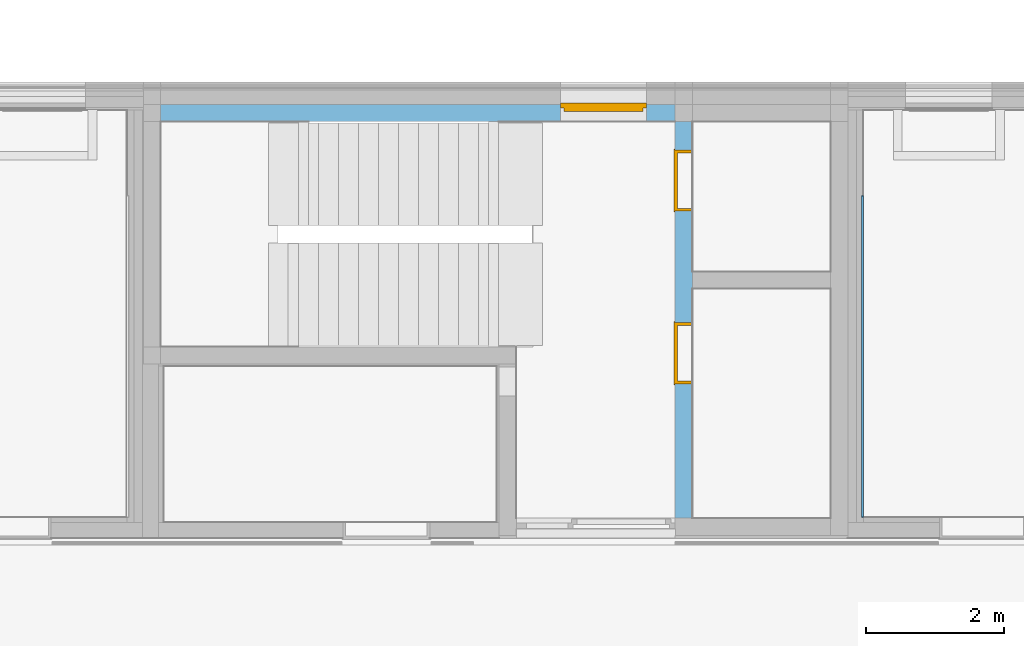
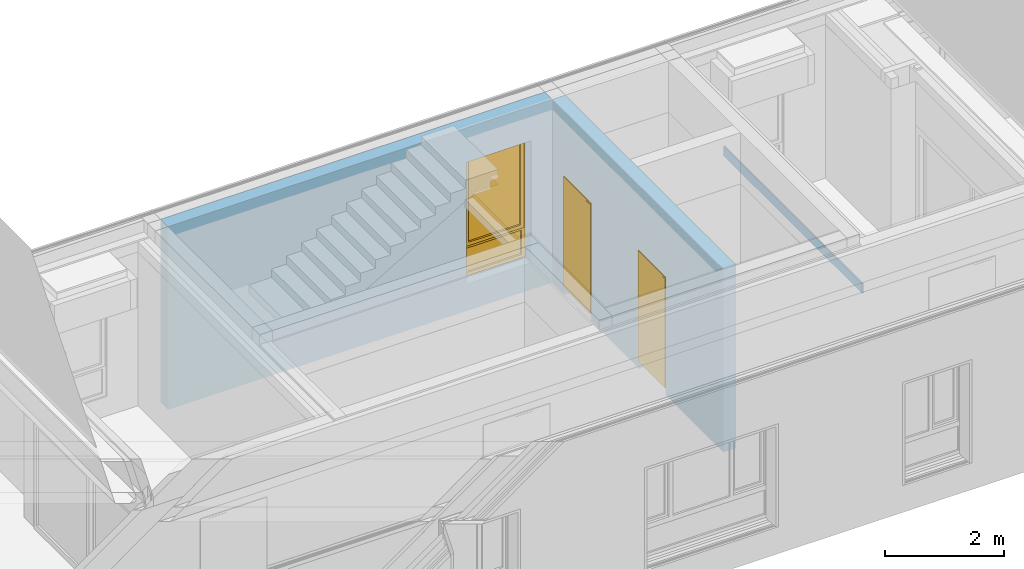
# One storey, part 108 of 222: 2 doors, 1 wall, 1 window, 3 openings, plus 2 elements that do not belong to this part.
"""IFC4 building model written with IfcOpenShell, lengths in metres."""

from ifc_helpers import new_model, entity, si_unit, converted_unit, derived_unit, frame, frame_2d, origin, origin_with_axes, place, context, subcontext, project, spatial, polyline, rectangle, outline, extrude, closed_shell, open_shell, faceted_brep, surface_model, source, transform, mapped, material, type_object, element, fill, save


model = new_model("IFC4")

# Units and contexts
model_context = context("Model", 3, precision=1e-05, world=origin())
body_context = subcontext(model_context, "Body", "Model", "MODEL_VIEW")
ifc_project = project(units=[si_unit("LENGTHUNIT", "METRE"), si_unit("AREAUNIT", "SQUARE_METRE"), si_unit("VOLUMEUNIT", "CUBIC_METRE"), si_unit("MASSUNIT", "GRAM", prefix="KILO"), converted_unit("PLANEANGLEUNIT", "DEGREE", entity("IfcPlaneAngleMeasure", 0.0174532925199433), si_unit("PLANEANGLEUNIT", "RADIAN"), dimensions=[0, 0, 0, 0, 0, 0, 0]), derived_unit("THERMALTRANSMITTANCEUNIT", [(si_unit("POWERUNIT", "WATT"), 1), (si_unit("THERMODYNAMICTEMPERATUREUNIT", "KELVIN"), -1), (si_unit("LENGTHUNIT", "METRE"), -2)]), derived_unit("VOLUMETRICFLOWRATEUNIT", [(si_unit("LENGTHUNIT", "METRE"), 3), (converted_unit("TIMEUNIT", "hour", entity("IfcTimeMeasure", 3600.0), si_unit("TIMEUNIT", "SECOND"), dimensions=[0, 0, 1, 0, 0, 0, 0]), -1), (si_unit("LENGTHUNIT", "METRE"), -1)])], contexts=[model_context])

# Site, building, storey
site_placement = place(None, origin())
site = spatial("IfcSite", under=ifc_project, at=site_placement, Name="Psychiatrie Neubau Wunstorf", CompositionType="ELEMENT")
building_placement = place(site_placement, origin())
building = spatial("IfcBuilding", under=site, at=building_placement, Name="Neubau H2 Stationsgebäude", CompositionType="ELEMENT")
storey_placement = place(building_placement, frame((0.0, 0.0, 3.6)))
storey = spatial("IfcBuildingStorey", under=building, at=storey_placement, Name="H2 Ebene +1", CompositionType="ELEMENT", Elevation=3.6)

# Wall, opening, window
ifc_material_1 = material(Name="WA-STB")
wall_1_placement = place(storey_placement, frame((48.15, 28.8949996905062, 0.0)))
wall_1 = element("IfcWall", 1, at=wall_1_placement, inside=storey, material=ifc_material_1, context=body_context, shape_type="SweptSolid", body=[
    extrude(rectangle(XDim=7.45, YDim=0.25, at=frame_2d((3.725, 0.125), x_axis=(1.0, 0.0))), origin_with_axes(), (0.0, 0.0, 1.0), 3.75),
])
opening_1_placement = place(wall_1_placement, frame((5.78750000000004, 0.0, 0.55), z_axis=(0.0, 1.0, 0.0), x_axis=(0.0, 0.0, 1.0)))
opening_1 = element("IfcOpeningElement", 2, at=opening_1_placement, cuts=wall_1, Name="Fensteröffnung", ObjectType="Opening", context=body_context, shape_type="SweptSolid", body=[
    extrude(outline(polyline([(2.5, 1.25), (2.5, 0.0), (0.0, 0.0), (0.0, 1.25), (2.5, 1.25)])), origin_with_axes(), (0.0, 0.0, 1.0), 0.25),
])
window_type = type_object("IfcWindowType", Name="Fenster", ParameterTakesPrecedence=False, PartitioningType="DOUBLE_PANEL_HORIZONTAL", PredefinedType="WINDOW")
shared_shape_1 = source(origin_with_axes(), body_context, "Body", "SurfaceModel", [
    surface_model("IfcShellBasedSurfaceModel", [(1.25, 0.0, 2.5), (1.25, 0.0, 0.0), (1.18, 0.0, 0.0), (1.18, 0.0, 2.5), (1.25, 0.0700000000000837, 0.0), (1.25, 0.0700000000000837, 2.5), (1.18, 0.0700000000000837, 2.5), (1.18, 0.0700000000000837, 0.0)], [closed_shell([[[0, 1, 2, 3]], [[4, 5, 6, 7]], [[1, 0, 5, 4]], [[2, 1, 4, 7]], [[3, 2, 7, 6]], [[0, 3, 6, 5]]], orient=[[False], [False], [False], [False], [False], [False]])]),
    surface_model("IfcShellBasedSurfaceModel", [(0.07, 0.0, 2.5), (0.07, 0.0, 0.0), (0.0, 0.0, 0.0), (0.0, 0.0, 2.5), (0.07, 0.0700000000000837, 0.0), (0.07, 0.0700000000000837, 2.5), (0.0, 0.0700000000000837, 2.5), (0.0, 0.0700000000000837, 0.0)], [closed_shell([[[0, 1, 2, 3]], [[4, 5, 6, 7]], [[1, 0, 5, 4]], [[2, 1, 4, 7]], [[3, 2, 7, 6]], [[0, 3, 6, 5]]], orient=[[False], [False], [False], [False], [False], [False]])]),
    surface_model("IfcShellBasedSurfaceModel", [(1.18, 0.0, 0.07), (1.18, 0.0, 0.0), (0.07, 0.0, 0.0), (0.07, 0.0, 0.07), (1.18, 0.0700000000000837, 0.0), (1.18, 0.0700000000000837, 0.07), (0.07, 0.0700000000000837, 0.07), (0.07, 0.0700000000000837, 0.0)], [closed_shell([[[0, 1, 2, 3]], [[4, 5, 6, 7]], [[1, 0, 5, 4]], [[2, 1, 4, 7]], [[3, 2, 7, 6]], [[0, 3, 6, 5]]], orient=[[False], [False], [False], [False], [False], [False]])]),
    surface_model("IfcShellBasedSurfaceModel", [(1.18, 0.0, 2.5), (1.18, 0.0, 2.43), (0.07, 0.0, 2.43), (0.07, 0.0, 2.5), (1.18, 0.0700000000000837, 2.43), (1.18, 0.0700000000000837, 2.5), (0.07, 0.0700000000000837, 2.5), (0.07, 0.0700000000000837, 2.43)], [closed_shell([[[0, 1, 2, 3]], [[4, 5, 6, 7]], [[1, 0, 5, 4]], [[2, 1, 4, 7]], [[3, 2, 7, 6]], [[0, 3, 6, 5]]], orient=[[False], [False], [False], [False], [False], [False]])]),
    surface_model("IfcShellBasedSurfaceModel", [(1.18, 0.0, 0.67), (1.18, 0.0, 0.57), (0.07, 0.0, 0.57), (0.07, 0.0, 0.67), (1.18, 0.0700000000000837, 0.57), (1.18, 0.0700000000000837, 0.67), (0.07, 0.0700000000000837, 0.67), (0.07, 0.0700000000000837, 0.57)], [closed_shell([[[0, 1, 2, 3]], [[4, 5, 6, 7]], [[1, 0, 5, 4]], [[2, 1, 4, 7]], [[3, 2, 7, 6]], [[0, 3, 6, 5]]], orient=[[False], [False], [False], [False], [False], [False]])]),
    surface_model("IfcShellBasedSurfaceModel", [(1.18, 0.0350000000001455, 0.07), (0.07, 0.0350000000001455, 0.07), (0.07, 0.0350000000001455, 0.57), (1.18, 0.0350000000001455, 0.57)], [open_shell([[[0, 1, 2, 3]]], orient=[[False]])]),
    surface_model("IfcShellBasedSurfaceModel", [(1.2, 0.0500000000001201, 2.45), (1.2, 0.0500000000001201, 0.65), (1.13, 0.0500000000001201, 0.65), (1.13, 0.0500000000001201, 2.45), (1.2, 0.12, 0.65), (1.2, 0.12, 2.45), (1.13, 0.12, 2.45), (1.13, 0.12, 0.65)], [closed_shell([[[0, 1, 2, 3]], [[4, 5, 6, 7]], [[1, 0, 5, 4]], [[2, 1, 4, 7]], [[3, 2, 7, 6]], [[0, 3, 6, 5]]], orient=[[False], [False], [False], [False], [False], [False]])]),
    surface_model("IfcShellBasedSurfaceModel", [(0.12, 0.0500000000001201, 2.45), (0.12, 0.0500000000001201, 0.65), (0.05, 0.0500000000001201, 0.65), (0.05, 0.0500000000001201, 2.45), (0.12, 0.12, 0.65), (0.12, 0.12, 2.45), (0.05, 0.12, 2.45), (0.05, 0.12, 0.65)], [closed_shell([[[0, 1, 2, 3]], [[4, 5, 6, 7]], [[1, 0, 5, 4]], [[2, 1, 4, 7]], [[3, 2, 7, 6]], [[0, 3, 6, 5]]], orient=[[False], [False], [False], [False], [False], [False]])]),
    surface_model("IfcShellBasedSurfaceModel", [(1.13, 0.0500000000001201, 0.72), (1.13, 0.0500000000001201, 0.65), (0.12, 0.0500000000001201, 0.65), (0.12, 0.0500000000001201, 0.72), (1.13, 0.12, 0.65), (1.13, 0.12, 0.72), (0.12, 0.12, 0.72), (0.12, 0.12, 0.65)], [closed_shell([[[0, 1, 2, 3]], [[4, 5, 6, 7]], [[1, 0, 5, 4]], [[2, 1, 4, 7]], [[3, 2, 7, 6]], [[0, 3, 6, 5]]], orient=[[False], [False], [False], [False], [False], [False]])]),
    surface_model("IfcShellBasedSurfaceModel", [(1.13, 0.0500000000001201, 2.45), (1.13, 0.0500000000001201, 2.38), (0.12, 0.0500000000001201, 2.38), (0.12, 0.0500000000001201, 2.45), (1.13, 0.12, 2.38), (1.13, 0.12, 2.45), (0.12, 0.12, 2.45), (0.12, 0.12, 2.38)], [closed_shell([[[0, 1, 2, 3]], [[4, 5, 6, 7]], [[1, 0, 5, 4]], [[2, 1, 4, 7]], [[3, 2, 7, 6]], [[0, 3, 6, 5]]], orient=[[False], [False], [False], [False], [False], [False]])]),
    surface_model("IfcShellBasedSurfaceModel", [(1.13, 0.0850000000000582, 0.72), (0.12, 0.0850000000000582, 0.72), (0.12, 0.0850000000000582, 2.38), (1.13, 0.0850000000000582, 2.38)], [open_shell([[[0, 1, 2, 3]]], orient=[[False]])]),
])
window_placement = place(opening_1_placement, frame((0.0, 1.25, 0.27), z_axis=(1.0, 0.0, 0.0), x_axis=(0.0, -1.0, 0.0)))
window = element("IfcWindow", 3, at=window_placement, inside=storey, type_object=window_type, Name="Fenster", OverallHeight=2.5, OverallWidth=1.25, context=body_context, shape_type="MappedRepresentation", body=[
    mapped(shared_shape_1, transform((0.0, 0.0, 0.0), x_axis=(1.0, 0.0, 0.0), y_axis=(0.0, 1.0, 0.0), z_axis=(0.0, 0.0, 1.0), scale=1.0)),
])
fill(opening_1, window)

# Wall
wall_2_placement = place(storey_placement, frame((58.3, 23.1709999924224, 2.3)))
element("IfcWall", 4, at=wall_2_placement, inside=storey, Name="WV 1.1", context=body_context, shape_type="Brep", body=[
    faceted_brep([(0.025, 4.65, 0.0), (0.0, 4.65, 0.0), (0.0, 0.0, 0.0), (0.025, 0.0, 0.0), (0.0, 4.65, 0.2), (0.025, 4.65, 0.2), (0.025, 0.0, 0.2), (0.0, 0.0, 0.2)], [[[0, 1, 2, 3]], [[4, 5, 6, 7]], [[1, 0, 5, 4]], [[2, 1, 4, 7]], [[3, 2, 7, 6]], [[0, 3, 6, 5]]], orient=[[False], [False], [False], [False], [False], [False]]),
])

# Wall, openings, doors
ifc_material_2 = material(Name="WA-STB")
wall_3_placement = place(storey_placement, frame((55.6, 28.8949996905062, 0.0), z_axis=(0.0, 0.0, 1.0), x_axis=(3.80275984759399e-15, -1.0, 0.0)))
wall_3 = element("IfcWall", 5, at=wall_3_placement, inside=storey, material=ifc_material_2, context=body_context, shape_type="SweptSolid", body=[
    extrude(rectangle(XDim=5.74000823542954, YDim=0.25, at=frame_2d((2.87000411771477, 0.125), x_axis=(1.0, 0.0))), origin_with_axes(), (0.0, 0.0, 1.0), 3.75),
])
opening_2_placement = place(wall_3_placement, frame((3.79499984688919, 0.25, 0.0), z_axis=(-3.63797880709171e-15, -1.0, 0.0), x_axis=(0.0, 0.0, 1.0)))
opening_2 = element("IfcOpeningElement", 6, at=opening_2_placement, cuts=wall_3, Name="Türöffnung", ObjectType="Opening", context=body_context, shape_type="SweptSolid", body=[
    extrude(outline(polyline([(2.41, 0.885), (2.41, 0.0), (0.0, 0.0), (0.0, 0.885), (2.41, 0.885)])), origin_with_axes(), (0.0, 0.0, 1.0), 0.25),
])
opening_3_placement = place(wall_3_placement, frame((1.29499999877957, 0.249999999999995, 0.0), z_axis=(-3.63797880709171e-15, -1.0, 0.0), x_axis=(0.0, 0.0, 1.0)))
opening_3 = element("IfcOpeningElement", 7, at=opening_3_placement, cuts=wall_3, Name="Türöffnung", ObjectType="Opening", context=body_context, shape_type="SweptSolid", body=[
    extrude(outline(polyline([(2.41, 0.885), (2.41, 0.0), (0.0, 0.0), (0.0, 0.885), (2.41, 0.885)])), origin_with_axes(), (0.0, 0.0, 1.0), 0.25),
])
ifc_material_3 = material(Name="TI-1F-UZ-ZK")
door_type_1 = type_object("IfcDoorType", Name="SMT", OperationType="SINGLE_SWING_RIGHT", ParameterTakesPrecedence=False, PredefinedType="DOOR")
shared_shape_2 = source(origin_with_axes(), body_context, "Body", "Brep", [
    faceted_brep([(0.884999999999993, -0.0149999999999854, 2.41), (0.884999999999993, -0.0149999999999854, 0.15), (0.844999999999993, -0.0149999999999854, 0.15), (0.844999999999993, -0.0149999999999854, 2.41), (0.884999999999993, 0.265000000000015, 0.15), (0.884999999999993, 0.265000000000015, 2.41), (0.844999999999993, 0.265000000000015, 2.41), (0.844999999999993, 0.265000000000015, 0.15)], [[[0, 1, 2, 3]], [[4, 5, 6, 7]], [[1, 0, 5, 4]], [[2, 1, 4, 7]], [[3, 2, 7, 6]], [[0, 3, 6, 5]]], orient=[[False], [False], [False], [False], [False], [False]]),
    faceted_brep([(0.884999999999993, -0.0149999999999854, 2.425), (0.899999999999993, -0.0149999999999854, 2.425), (0.899999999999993, -0.0149999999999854, 0.15), (0.884999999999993, -0.0149999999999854, 0.15), (0.884999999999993, 0.0, 0.15), (0.899999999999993, 0.0, 0.15), (0.899999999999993, 0.0, 2.425), (0.884999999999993, 0.0, 2.425)], [[[0, 1, 2, 3]], [[4, 5, 6, 7]], [[3, 4, 7, 0]], [[2, 5, 4, 3]], [[1, 6, 5, 2]], [[0, 7, 6, 1]]], orient=[[False], [False], [False], [False], [False], [False]]),
    faceted_brep([(0.884999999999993, 0.250000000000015, 2.425), (0.899999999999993, 0.250000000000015, 2.425), (0.899999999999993, 0.250000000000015, 0.15), (0.884999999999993, 0.250000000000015, 0.15), (0.884999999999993, 0.265000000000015, 0.15), (0.899999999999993, 0.265000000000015, 0.15), (0.899999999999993, 0.265000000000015, 2.425), (0.884999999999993, 0.265000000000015, 2.425)], [[[0, 1, 2, 3]], [[4, 5, 6, 7]], [[3, 4, 7, 0]], [[2, 5, 4, 3]], [[1, 6, 5, 2]], [[0, 7, 6, 1]]], orient=[[False], [False], [False], [False], [False], [False]]),
    faceted_brep([(0.0399999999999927, -0.0149999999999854, 2.41), (0.0399999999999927, -0.0149999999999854, 0.15), (0.0, -0.0149999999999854, 0.15), (0.0, -0.0149999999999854, 2.41), (0.0399999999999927, 0.265000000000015, 0.15), (0.0399999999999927, 0.265000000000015, 2.41), (0.0, 0.265000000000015, 2.41), (0.0, 0.265000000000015, 0.15)], [[[0, 1, 2, 3]], [[4, 5, 6, 7]], [[1, 0, 5, 4]], [[2, 1, 4, 7]], [[3, 2, 7, 6]], [[0, 3, 6, 5]]], orient=[[False], [False], [False], [False], [False], [False]]),
    faceted_brep([(0.0, -0.0149999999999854, 2.425), (0.0, -0.0149999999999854, 0.15), (-0.0150000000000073, -0.0149999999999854, 0.15), (-0.0150000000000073, -0.0149999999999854, 2.425), (0.0, 0.0, 0.15), (0.0, 0.0, 2.425), (-0.0150000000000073, 0.0, 2.425), (-0.0150000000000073, 0.0, 0.15)], [[[0, 1, 2, 3]], [[4, 5, 6, 7]], [[1, 0, 5, 4]], [[2, 1, 4, 7]], [[3, 2, 7, 6]], [[0, 3, 6, 5]]], orient=[[False], [False], [False], [False], [False], [False]]),
    faceted_brep([(0.0, 0.250000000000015, 2.425), (0.0, 0.250000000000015, 0.15), (-0.0150000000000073, 0.250000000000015, 0.15), (-0.0150000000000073, 0.250000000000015, 2.425), (0.0, 0.265000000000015, 0.15), (0.0, 0.265000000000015, 2.425), (-0.0150000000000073, 0.265000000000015, 2.425), (-0.0150000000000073, 0.265000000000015, 0.15)], [[[0, 1, 2, 3]], [[4, 5, 6, 7]], [[1, 0, 5, 4]], [[2, 1, 4, 7]], [[3, 2, 7, 6]], [[0, 3, 6, 5]]], orient=[[False], [False], [False], [False], [False], [False]]),
    faceted_brep([(0.844999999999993, -0.0149999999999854, 2.41), (0.844999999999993, -0.0149999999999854, 2.37), (0.0399999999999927, -0.0149999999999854, 2.37), (0.0399999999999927, -0.0149999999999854, 2.41), (0.844999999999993, 0.265000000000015, 2.37), (0.844999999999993, 0.265000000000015, 2.41), (0.0399999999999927, 0.265000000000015, 2.41), (0.0399999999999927, 0.265000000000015, 2.37)], [[[0, 1, 2, 3]], [[4, 5, 6, 7]], [[1, 0, 5, 4]], [[2, 1, 4, 7]], [[3, 2, 7, 6]], [[0, 3, 6, 5]]], orient=[[False], [False], [False], [False], [False], [False]]),
    faceted_brep([(0.884999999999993, -0.0149999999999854, 2.425), (0.884999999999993, -0.0149999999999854, 2.41), (0.0, -0.0149999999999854, 2.41), (0.0, -0.0149999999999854, 2.425), (0.884999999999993, 0.0, 2.41), (0.884999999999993, 0.0, 2.425), (0.0, 0.0, 2.425), (0.0, 0.0, 2.41)], [[[0, 1, 2, 3]], [[4, 5, 6, 7]], [[1, 0, 5, 4]], [[2, 1, 4, 7]], [[3, 2, 7, 6]], [[0, 3, 6, 5]]], orient=[[False], [False], [False], [False], [False], [False]]),
    faceted_brep([(0.884999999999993, 0.250000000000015, 2.425), (0.884999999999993, 0.250000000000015, 2.41), (0.0, 0.250000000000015, 2.41), (0.0, 0.250000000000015, 2.425), (0.884999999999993, 0.265000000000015, 2.41), (0.884999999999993, 0.265000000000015, 2.425), (0.0, 0.265000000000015, 2.425), (0.0, 0.265000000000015, 2.41)], [[[0, 1, 2, 3]], [[4, 5, 6, 7]], [[1, 0, 5, 4]], [[2, 1, 4, 7]], [[3, 2, 7, 6]], [[0, 3, 6, 5]]], orient=[[False], [False], [False], [False], [False], [False]]),
    faceted_brep([(0.859999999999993, 0.216000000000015, 2.385), (0.859999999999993, 0.216000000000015, 0.15), (0.0249999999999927, 0.216000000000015, 0.15), (0.0249999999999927, 0.216000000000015, 2.385), (0.859999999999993, 0.266000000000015, 0.15), (0.859999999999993, 0.266000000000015, 2.385), (0.0249999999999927, 0.266000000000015, 2.385), (0.0249999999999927, 0.266000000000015, 0.15)], [[[0, 1, 2, 3]], [[4, 5, 6, 7]], [[1, 0, 5, 4]], [[2, 1, 4, 7]], [[3, 2, 7, 6]], [[0, 3, 6, 5]]], orient=[[False], [False], [False], [False], [False], [False]]),
])
door_1_placement = place(opening_2_placement, frame((0.0, 0.0, 0.0), z_axis=(1.0, 0.0, 0.0), x_axis=(0.0, 1.0, -1.64781040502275e-16)))
door_1 = element("IfcDoor", 8, at=door_1_placement, inside=storey, type_object=door_type_1, material=ifc_material_3, Name="SMT", OverallHeight=2.41, OverallWidth=0.885, context=body_context, shape_type="MappedRepresentation", body=[
    mapped(shared_shape_2, transform((0.0, 0.0, 0.0), x_axis=(1.0, 0.0, 0.0), y_axis=(0.0, 1.0, 0.0), z_axis=(0.0, 0.0, 1.0), scale=1.0)),
])
fill(opening_2, door_1)
ifc_material_4 = material(Name="TI-1F-UZ-ZK")
door_type_2 = type_object("IfcDoorType", Name="SMT", OperationType="SINGLE_SWING_RIGHT", ParameterTakesPrecedence=False, PredefinedType="DOOR")
shared_shape_3 = source(origin_with_axes(), body_context, "Body", "Brep", [
    faceted_brep([(0.884999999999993, -0.0149999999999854, 2.41), (0.884999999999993, -0.0149999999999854, 0.15), (0.844999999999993, -0.0149999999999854, 0.15), (0.844999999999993, -0.0149999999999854, 2.41), (0.884999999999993, 0.265000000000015, 0.15), (0.884999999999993, 0.265000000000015, 2.41), (0.844999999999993, 0.265000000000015, 2.41), (0.844999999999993, 0.265000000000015, 0.15)], [[[0, 1, 2, 3]], [[4, 5, 6, 7]], [[1, 0, 5, 4]], [[2, 1, 4, 7]], [[3, 2, 7, 6]], [[0, 3, 6, 5]]], orient=[[False], [False], [False], [False], [False], [False]]),
    faceted_brep([(0.884999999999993, -0.0149999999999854, 2.425), (0.899999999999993, -0.0149999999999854, 2.425), (0.899999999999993, -0.0149999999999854, 0.15), (0.884999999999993, -0.0149999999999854, 0.15), (0.884999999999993, 0.0, 0.15), (0.899999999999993, 0.0, 0.15), (0.899999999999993, 0.0, 2.425), (0.884999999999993, 0.0, 2.425)], [[[0, 1, 2, 3]], [[4, 5, 6, 7]], [[3, 4, 7, 0]], [[2, 5, 4, 3]], [[1, 6, 5, 2]], [[0, 7, 6, 1]]], orient=[[False], [False], [False], [False], [False], [False]]),
    faceted_brep([(0.884999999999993, 0.250000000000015, 2.425), (0.899999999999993, 0.250000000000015, 2.425), (0.899999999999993, 0.250000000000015, 0.15), (0.884999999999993, 0.250000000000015, 0.15), (0.884999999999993, 0.265000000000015, 0.15), (0.899999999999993, 0.265000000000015, 0.15), (0.899999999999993, 0.265000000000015, 2.425), (0.884999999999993, 0.265000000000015, 2.425)], [[[0, 1, 2, 3]], [[4, 5, 6, 7]], [[3, 4, 7, 0]], [[2, 5, 4, 3]], [[1, 6, 5, 2]], [[0, 7, 6, 1]]], orient=[[False], [False], [False], [False], [False], [False]]),
    faceted_brep([(0.0399999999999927, -0.0149999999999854, 2.41), (0.0399999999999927, -0.0149999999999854, 0.15), (0.0, -0.0149999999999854, 0.15), (0.0, -0.0149999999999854, 2.41), (0.0399999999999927, 0.265000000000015, 0.15), (0.0399999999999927, 0.265000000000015, 2.41), (0.0, 0.265000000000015, 2.41), (0.0, 0.265000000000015, 0.15)], [[[0, 1, 2, 3]], [[4, 5, 6, 7]], [[1, 0, 5, 4]], [[2, 1, 4, 7]], [[3, 2, 7, 6]], [[0, 3, 6, 5]]], orient=[[False], [False], [False], [False], [False], [False]]),
    faceted_brep([(0.0, -0.0149999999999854, 2.425), (0.0, -0.0149999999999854, 0.15), (-0.0150000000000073, -0.0149999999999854, 0.15), (-0.0150000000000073, -0.0149999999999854, 2.425), (0.0, 0.0, 0.15), (0.0, 0.0, 2.425), (-0.0150000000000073, 0.0, 2.425), (-0.0150000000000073, 0.0, 0.15)], [[[0, 1, 2, 3]], [[4, 5, 6, 7]], [[1, 0, 5, 4]], [[2, 1, 4, 7]], [[3, 2, 7, 6]], [[0, 3, 6, 5]]], orient=[[False], [False], [False], [False], [False], [False]]),
    faceted_brep([(0.0, 0.250000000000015, 2.425), (0.0, 0.250000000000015, 0.15), (-0.0150000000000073, 0.250000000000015, 0.15), (-0.0150000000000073, 0.250000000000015, 2.425), (0.0, 0.265000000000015, 0.15), (0.0, 0.265000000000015, 2.425), (-0.0150000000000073, 0.265000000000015, 2.425), (-0.0150000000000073, 0.265000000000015, 0.15)], [[[0, 1, 2, 3]], [[4, 5, 6, 7]], [[1, 0, 5, 4]], [[2, 1, 4, 7]], [[3, 2, 7, 6]], [[0, 3, 6, 5]]], orient=[[False], [False], [False], [False], [False], [False]]),
    faceted_brep([(0.844999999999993, -0.0149999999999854, 2.41), (0.844999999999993, -0.0149999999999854, 2.37), (0.0399999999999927, -0.0149999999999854, 2.37), (0.0399999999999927, -0.0149999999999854, 2.41), (0.844999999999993, 0.265000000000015, 2.37), (0.844999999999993, 0.265000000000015, 2.41), (0.0399999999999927, 0.265000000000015, 2.41), (0.0399999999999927, 0.265000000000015, 2.37)], [[[0, 1, 2, 3]], [[4, 5, 6, 7]], [[1, 0, 5, 4]], [[2, 1, 4, 7]], [[3, 2, 7, 6]], [[0, 3, 6, 5]]], orient=[[False], [False], [False], [False], [False], [False]]),
    faceted_brep([(0.884999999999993, -0.0149999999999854, 2.425), (0.884999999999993, -0.0149999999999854, 2.41), (0.0, -0.0149999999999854, 2.41), (0.0, -0.0149999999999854, 2.425), (0.884999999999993, 0.0, 2.41), (0.884999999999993, 0.0, 2.425), (0.0, 0.0, 2.425), (0.0, 0.0, 2.41)], [[[0, 1, 2, 3]], [[4, 5, 6, 7]], [[1, 0, 5, 4]], [[2, 1, 4, 7]], [[3, 2, 7, 6]], [[0, 3, 6, 5]]], orient=[[False], [False], [False], [False], [False], [False]]),
    faceted_brep([(0.884999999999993, 0.250000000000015, 2.425), (0.884999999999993, 0.250000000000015, 2.41), (0.0, 0.250000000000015, 2.41), (0.0, 0.250000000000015, 2.425), (0.884999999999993, 0.265000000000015, 2.41), (0.884999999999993, 0.265000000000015, 2.425), (0.0, 0.265000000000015, 2.425), (0.0, 0.265000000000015, 2.41)], [[[0, 1, 2, 3]], [[4, 5, 6, 7]], [[1, 0, 5, 4]], [[2, 1, 4, 7]], [[3, 2, 7, 6]], [[0, 3, 6, 5]]], orient=[[False], [False], [False], [False], [False], [False]]),
    faceted_brep([(0.859999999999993, 0.216000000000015, 2.385), (0.859999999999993, 0.216000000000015, 0.15), (0.0249999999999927, 0.216000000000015, 0.15), (0.0249999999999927, 0.216000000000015, 2.385), (0.859999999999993, 0.266000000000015, 0.15), (0.859999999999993, 0.266000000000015, 2.385), (0.0249999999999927, 0.266000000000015, 2.385), (0.0249999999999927, 0.266000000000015, 0.15)], [[[0, 1, 2, 3]], [[4, 5, 6, 7]], [[1, 0, 5, 4]], [[2, 1, 4, 7]], [[3, 2, 7, 6]], [[0, 3, 6, 5]]], orient=[[False], [False], [False], [False], [False], [False]]),
])
door_2_placement = place(opening_3_placement, frame((0.0, 0.0, 0.0), z_axis=(1.0, 0.0, 0.0), x_axis=(0.0, 1.0, -1.64781040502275e-16)))
door_2 = element("IfcDoor", 9, at=door_2_placement, inside=storey, type_object=door_type_2, material=ifc_material_4, Name="SMT", OverallHeight=2.41, OverallWidth=0.885, context=body_context, shape_type="MappedRepresentation", body=[
    mapped(shared_shape_3, transform((0.0, 0.0, 0.0), x_axis=(1.0, 0.0, 0.0), y_axis=(0.0, 1.0, 0.0), z_axis=(0.0, 0.0, 1.0), scale=1.0)),
])
fill(opening_3, door_2)

save(model, "model.ifc")
